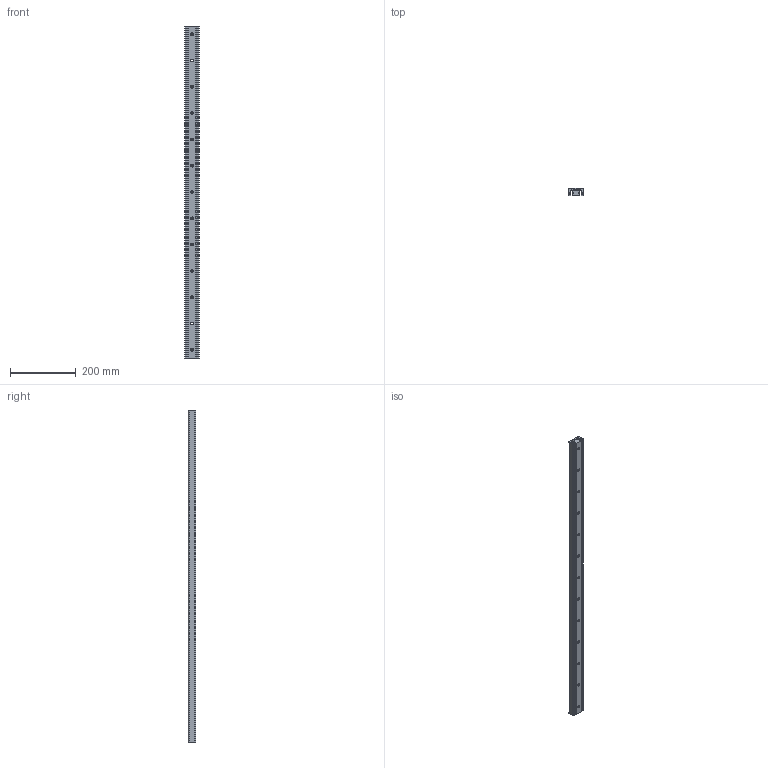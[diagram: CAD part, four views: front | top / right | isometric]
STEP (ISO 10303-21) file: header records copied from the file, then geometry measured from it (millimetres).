
FILE_DESCRIPTION(('STEP AP214'),'1');
FILE_NAME('rail_asn43-1010_00.stp','2017-06-06T10:15:53',('TraceParts'),('TraceParts S.A.'),'Spatial InterOp 3D',' ',' ');
FILE_SCHEMA(('automotive_design'));
Length unit declared in the file: millimetre
Products named in the file (2): rail_asn43-1010_00_1; rail_asn43-1010_00_2
Bounding box: 43 x 22.01 x 1010 mm (x, y, z)
Volume: 614791 mm3; surface area: 238242.3 mm2
Topology: 2 solids, 2 shells, 207 faces, 516 edges, 318 vertices
Faces by surface type: cylinder 83, cone 78, plane 46
Entity records: 6304 total; most frequent: DIRECTION 1178, CARTESIAN_POINT 1043, ORIENTED_EDGE 1032, EDGE_CURVE 516, AXIS2_PLACEMENT_3D 453, VERTEX_POINT 318, LINE 272, VECTOR 272
